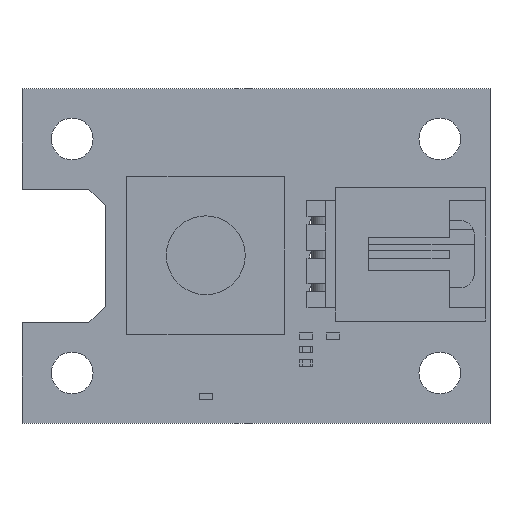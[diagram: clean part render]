
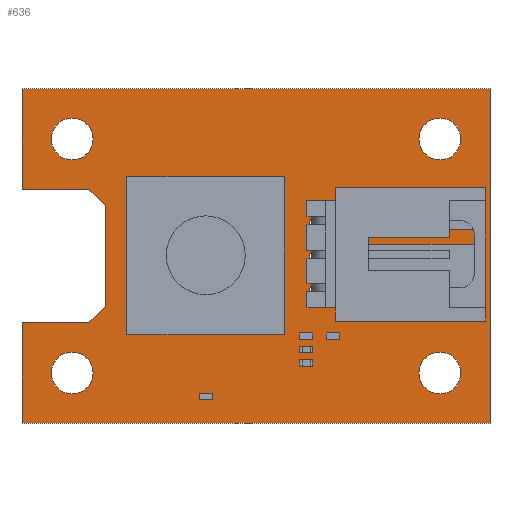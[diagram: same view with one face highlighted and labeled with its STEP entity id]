
A CAD part, top view. The second image highlights one B-rep face of the part: STEP entity #636.
In plain terms, the highlighted planar face has unit normal (0, 0, 1).
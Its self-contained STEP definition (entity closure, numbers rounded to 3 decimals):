
#63 = VERTEX_POINT('',#64);
#64 = CARTESIAN_POINT('',(0.,0.,0.));
#70 = EDGE_CURVE('',#63,#71,#73,.T.);
#71 = VERTEX_POINT('',#72);
#72 = CARTESIAN_POINT('',(0.,7.62,0.));
#73 = LINE('',#74,#75);
#74 = CARTESIAN_POINT('',(0.,0.,0.));
#75 = VECTOR('',#76,1.);
#76 = DIRECTION('',(0.,1.,0.));
#101 = EDGE_CURVE('',#71,#102,#104,.T.);
#102 = VERTEX_POINT('',#103);
#103 = CARTESIAN_POINT('',(5.08,7.62,0.));
#104 = LINE('',#105,#106);
#105 = CARTESIAN_POINT('',(0.,7.62,0.));
#106 = VECTOR('',#107,1.);
#107 = DIRECTION('',(1.,0.,0.));
#132 = EDGE_CURVE('',#102,#133,#135,.T.);
#133 = VERTEX_POINT('',#134);
#134 = CARTESIAN_POINT('',(6.35,8.89,0.));
#135 = LINE('',#136,#137);
#136 = CARTESIAN_POINT('',(5.08,7.62,0.));
#137 = VECTOR('',#138,1.);
#138 = DIRECTION('',(0.707,0.707,0.));
#163 = EDGE_CURVE('',#133,#164,#166,.T.);
#164 = VERTEX_POINT('',#165);
#165 = CARTESIAN_POINT('',(6.35,16.51,0.));
#166 = LINE('',#167,#168);
#167 = CARTESIAN_POINT('',(6.35,8.89,0.));
#168 = VECTOR('',#169,1.);
#169 = DIRECTION('',(0.,1.,0.));
#194 = EDGE_CURVE('',#164,#195,#197,.T.);
#195 = VERTEX_POINT('',#196);
#196 = CARTESIAN_POINT('',(5.08,17.78,0.));
#197 = LINE('',#198,#199);
#198 = CARTESIAN_POINT('',(6.35,16.51,0.));
#199 = VECTOR('',#200,1.);
#200 = DIRECTION('',(-0.707,0.707,0.));
#225 = EDGE_CURVE('',#195,#226,#228,.T.);
#226 = VERTEX_POINT('',#227);
#227 = CARTESIAN_POINT('',(0.,17.78,0.));
#228 = LINE('',#229,#230);
#229 = CARTESIAN_POINT('',(5.08,17.78,0.));
#230 = VECTOR('',#231,1.);
#231 = DIRECTION('',(-1.,0.,0.));
#256 = EDGE_CURVE('',#226,#257,#259,.T.);
#257 = VERTEX_POINT('',#258);
#258 = CARTESIAN_POINT('',(0.,25.4,0.));
#259 = LINE('',#260,#261);
#260 = CARTESIAN_POINT('',(0.,17.78,0.));
#261 = VECTOR('',#262,1.);
#262 = DIRECTION('',(0.,1.,0.));
#287 = EDGE_CURVE('',#257,#288,#290,.T.);
#288 = VERTEX_POINT('',#289);
#289 = CARTESIAN_POINT('',(35.56,25.4,0.));
#290 = LINE('',#291,#292);
#291 = CARTESIAN_POINT('',(0.,25.4,0.));
#292 = VECTOR('',#293,1.);
#293 = DIRECTION('',(1.,0.,0.));
#318 = EDGE_CURVE('',#288,#319,#321,.T.);
#319 = VERTEX_POINT('',#320);
#320 = CARTESIAN_POINT('',(35.56,0.,0.));
#321 = LINE('',#322,#323);
#322 = CARTESIAN_POINT('',(35.56,25.4,0.));
#323 = VECTOR('',#324,1.);
#324 = DIRECTION('',(0.,-1.,0.));
#349 = EDGE_CURVE('',#319,#63,#350,.T.);
#350 = LINE('',#351,#352);
#351 = CARTESIAN_POINT('',(35.56,0.,0.));
#352 = VECTOR('',#353,1.);
#353 = DIRECTION('',(-1.,0.,0.));
#373 = VERTEX_POINT('',#374);
#374 = CARTESIAN_POINT('',(5.398,3.81,0.));
#380 = EDGE_CURVE('',#373,#373,#381,.T.);
#381 = CIRCLE('',#382,1.588);
#382 = AXIS2_PLACEMENT_3D('',#383,#384,#385);
#383 = CARTESIAN_POINT('',(3.81,3.81,0.));
#384 = DIRECTION('',(0.,0.,1.));
#385 = DIRECTION('',(1.,0.,0.));
#406 = VERTEX_POINT('',#407);
#407 = CARTESIAN_POINT('',(5.398,21.59,0.));
#413 = EDGE_CURVE('',#406,#406,#414,.T.);
#414 = CIRCLE('',#415,1.588);
#415 = AXIS2_PLACEMENT_3D('',#416,#417,#418);
#416 = CARTESIAN_POINT('',(3.81,21.59,0.));
#417 = DIRECTION('',(0.,0.,1.));
#418 = DIRECTION('',(1.,0.,0.));
#439 = VERTEX_POINT('',#440);
#440 = CARTESIAN_POINT('',(22.835,12.7,0.));
#446 = EDGE_CURVE('',#439,#439,#447,.T.);
#447 = CIRCLE('',#448,0.483);
#448 = AXIS2_PLACEMENT_3D('',#449,#450,#451);
#449 = CARTESIAN_POINT('',(22.352,12.7,0.));
#450 = DIRECTION('',(0.,0.,1.));
#451 = DIRECTION('',(1.,0.,0.));
#472 = VERTEX_POINT('',#473);
#473 = CARTESIAN_POINT('',(22.835,10.16,0.));
#479 = EDGE_CURVE('',#472,#472,#480,.T.);
#480 = CIRCLE('',#481,0.483);
#481 = AXIS2_PLACEMENT_3D('',#482,#483,#484);
#482 = CARTESIAN_POINT('',(22.352,10.16,0.));
#483 = DIRECTION('',(0.,0.,1.));
#484 = DIRECTION('',(1.,0.,0.));
#505 = VERTEX_POINT('',#506);
#506 = CARTESIAN_POINT('',(33.338,3.81,0.));
#512 = EDGE_CURVE('',#505,#505,#513,.T.);
#513 = CIRCLE('',#514,1.588);
#514 = AXIS2_PLACEMENT_3D('',#515,#516,#517);
#515 = CARTESIAN_POINT('',(31.75,3.81,0.));
#516 = DIRECTION('',(0.,0.,1.));
#517 = DIRECTION('',(1.,0.,0.));
#538 = VERTEX_POINT('',#539);
#539 = CARTESIAN_POINT('',(22.835,15.24,0.));
#545 = EDGE_CURVE('',#538,#538,#546,.T.);
#546 = CIRCLE('',#547,0.483);
#547 = AXIS2_PLACEMENT_3D('',#548,#549,#550);
#548 = CARTESIAN_POINT('',(22.352,15.24,0.));
#549 = DIRECTION('',(0.,0.,1.));
#550 = DIRECTION('',(1.,0.,0.));
#571 = VERTEX_POINT('',#572);
#572 = CARTESIAN_POINT('',(33.338,21.59,0.));
#578 = EDGE_CURVE('',#571,#571,#579,.T.);
#579 = CIRCLE('',#580,1.588);
#580 = AXIS2_PLACEMENT_3D('',#581,#582,#583);
#581 = CARTESIAN_POINT('',(31.75,21.59,0.));
#582 = DIRECTION('',(0.,0.,1.));
#583 = DIRECTION('',(1.,0.,0.));
#636 = ADVANCED_FACE('',(#637,#649,#652,#655,#658,#661,#664,#667),#670,
  .T.);
#637 = FACE_BOUND('',#638,.F.);
#638 = EDGE_LOOP('',(#639,#640,#641,#642,#643,#644,#645,#646,#647,#648)
  );
#639 = ORIENTED_EDGE('',*,*,#70,.T.);
#640 = ORIENTED_EDGE('',*,*,#101,.T.);
#641 = ORIENTED_EDGE('',*,*,#132,.T.);
#642 = ORIENTED_EDGE('',*,*,#163,.T.);
#643 = ORIENTED_EDGE('',*,*,#194,.T.);
#644 = ORIENTED_EDGE('',*,*,#225,.T.);
#645 = ORIENTED_EDGE('',*,*,#256,.T.);
#646 = ORIENTED_EDGE('',*,*,#287,.T.);
#647 = ORIENTED_EDGE('',*,*,#318,.T.);
#648 = ORIENTED_EDGE('',*,*,#349,.T.);
#649 = FACE_BOUND('',#650,.T.);
#650 = EDGE_LOOP('',(#651));
#651 = ORIENTED_EDGE('',*,*,#380,.F.);
#652 = FACE_BOUND('',#653,.T.);
#653 = EDGE_LOOP('',(#654));
#654 = ORIENTED_EDGE('',*,*,#413,.F.);
#655 = FACE_BOUND('',#656,.T.);
#656 = EDGE_LOOP('',(#657));
#657 = ORIENTED_EDGE('',*,*,#446,.F.);
#658 = FACE_BOUND('',#659,.T.);
#659 = EDGE_LOOP('',(#660));
#660 = ORIENTED_EDGE('',*,*,#479,.F.);
#661 = FACE_BOUND('',#662,.T.);
#662 = EDGE_LOOP('',(#663));
#663 = ORIENTED_EDGE('',*,*,#512,.F.);
#664 = FACE_BOUND('',#665,.T.);
#665 = EDGE_LOOP('',(#666));
#666 = ORIENTED_EDGE('',*,*,#545,.F.);
#667 = FACE_BOUND('',#668,.T.);
#668 = EDGE_LOOP('',(#669));
#669 = ORIENTED_EDGE('',*,*,#578,.F.);
#670 = PLANE('',#671);
#671 = AXIS2_PLACEMENT_3D('',#672,#673,#674);
#672 = CARTESIAN_POINT('',(0.,0.,0.));
#673 = DIRECTION('',(0.,0.,1.));
#674 = DIRECTION('',(1.,0.,0.));
